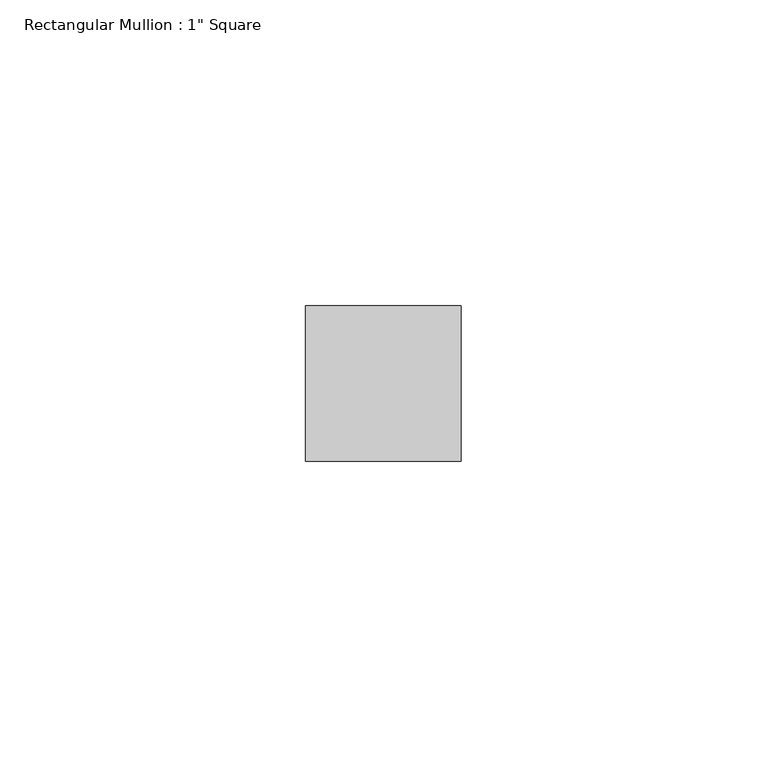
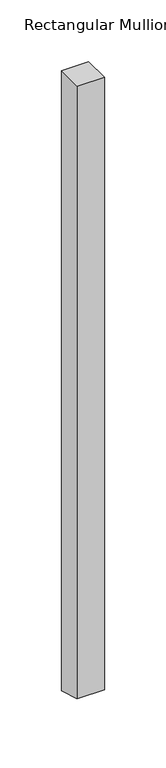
"""IFC4 building model written with IfcOpenShell, lengths in millimetres: member geometry."""

from ifc_helpers import new_model, si_unit, origin, place, context, project, spatial, faceted_brep, source, transform, mapped, element, save


def member_98341453(model_context):
    return source(origin(), model_context, "Body", "Brep", [
        faceted_brep([(0.0, 12.7, 0.0), (-25.4, 12.7, 0.0), (-25.4, -12.7, 0.0), (0.0, -12.7, 0.0), (0.0, 12.7, -613.3083892), (-25.4, 12.7, -613.3473306), (-25.4, -12.7, -605.9305523), (0.0, -12.7, -605.8916108)], [[[0, 1, 2, 3]], [[1, 0, 4, 5]], [[2, 1, 5, 6]], [[3, 2, 6, 7]], [[0, 3, 7, 4]], [[4, 7, 6, 5]]]),
    ])


if __name__ == "__main__":
    model = new_model("IFC4")
    model_context = context("Model", 3, world=origin())
    ifc_project = project(units=[si_unit("LENGTHUNIT", "METRE", prefix="MILLI")], contexts=[model_context])
    site = spatial("IfcSite", under=ifc_project)
    building = spatial("IfcBuilding", under=site)
    placement = place(None, origin())
    member_shape = member_98341453(model_context)
    element("IfcMember", 1, ObjectType="Rectangular Mullion : 1\" Square", at=placement, inside=building, context=model_context, shape_type="MappedRepresentation", body=[
        mapped(member_shape, transform((0.0, 0.0, 0.0), x_axis=(1.0, 0.0, 0.0), y_axis=(0.0, 1.0, 0.0), z_axis=(0.0, 0.0, 1.0))),
    ])
    save(model, "model.ifc")
